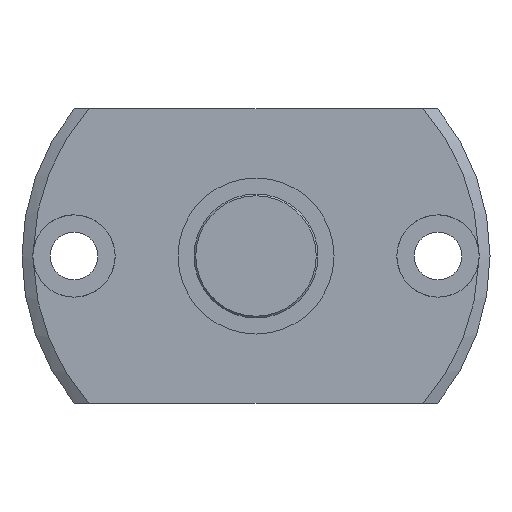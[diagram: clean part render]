
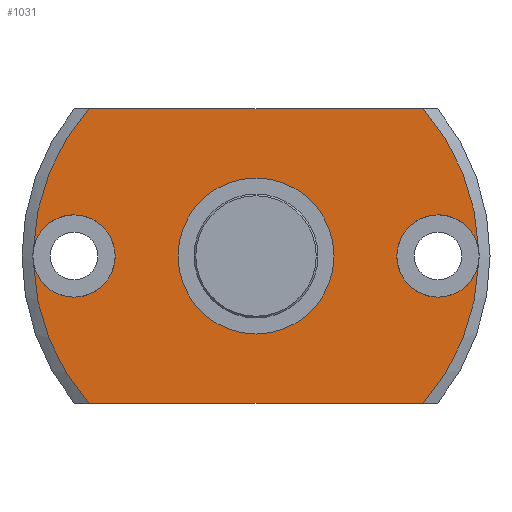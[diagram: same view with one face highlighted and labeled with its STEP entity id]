
A CAD part, left-side view. The second image highlights one B-rep face of the part: STEP entity #1031.
In plain terms, the highlighted planar face has unit normal (-1, 0, 0).
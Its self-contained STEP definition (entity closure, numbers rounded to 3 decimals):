
#38=LINE('',#1818,#88);
#39=LINE('',#1820,#89);
#88=VECTOR('',#1393,1000.);
#89=VECTOR('',#1396,1000.);
#308=ORIENTED_EDGE('',*,*,#562,.T.);
#309=ORIENTED_EDGE('',*,*,#563,.T.);
#310=ORIENTED_EDGE('',*,*,#548,.T.);
#311=ORIENTED_EDGE('',*,*,#564,.F.);
#312=ORIENTED_EDGE('',*,*,#550,.F.);
#313=ORIENTED_EDGE('',*,*,#565,.T.);
#314=ORIENTED_EDGE('',*,*,#554,.T.);
#315=ORIENTED_EDGE('',*,*,#566,.F.);
#316=ORIENTED_EDGE('',*,*,#544,.T.);
#544=EDGE_CURVE('',#670,#668,#743,.F.);
#548=EDGE_CURVE('',#669,#673,#745,.F.);
#550=EDGE_CURVE('',#674,#676,#746,.T.);
#554=EDGE_CURVE('',#675,#679,#748,.F.);
#562=EDGE_CURVE('',#687,#687,#754,.T.);
#563=EDGE_CURVE('',#668,#669,#755,.T.);
#564=EDGE_CURVE('',#676,#673,#38,.T.);
#565=EDGE_CURVE('',#674,#675,#756,.T.);
#566=EDGE_CURVE('',#670,#679,#39,.T.);
#668=VERTEX_POINT('',#1760);
#669=VERTEX_POINT('',#1761);
#670=VERTEX_POINT('',#1763);
#673=VERTEX_POINT('',#1775);
#674=VERTEX_POINT('',#1782);
#675=VERTEX_POINT('',#1783);
#676=VERTEX_POINT('',#1785);
#679=VERTEX_POINT('',#1797);
#687=VERTEX_POINT('',#1816);
#743=CIRCLE('',#1153,25.7);
#745=CIRCLE('',#1155,25.7);
#746=CIRCLE('',#1157,25.7);
#748=CIRCLE('',#1159,25.7);
#754=CIRCLE('',#1167,9.);
#755=CIRCLE('',#1168,4.75);
#756=CIRCLE('',#1169,4.75);
#816=EDGE_LOOP('',(#308));
#817=EDGE_LOOP('',(#309,#310,#311,#312,#313,#314,#315,#316));
#914=FACE_BOUND('',#816,.T.);
#915=FACE_BOUND('',#817,.T.);
#976=PLANE('',#1166);
#1031=ADVANCED_FACE('',(#914,#915),#976,.F.);
#1153=AXIS2_PLACEMENT_3D('',#1762,#1359,#1360);
#1155=AXIS2_PLACEMENT_3D('',#1776,#1363,#1364);
#1157=AXIS2_PLACEMENT_3D('',#1784,#1367,#1368);
#1159=AXIS2_PLACEMENT_3D('',#1798,#1371,#1372);
#1166=AXIS2_PLACEMENT_3D('',#1814,#1387,#1388);
#1167=AXIS2_PLACEMENT_3D('',#1815,#1389,#1390);
#1168=AXIS2_PLACEMENT_3D('',#1817,#1391,#1392);
#1169=AXIS2_PLACEMENT_3D('',#1819,#1394,#1395);
#1359=DIRECTION('',(1.,0.,0.));
#1360=DIRECTION('',(0.,0.,-1.));
#1363=DIRECTION('',(1.,0.,0.));
#1364=DIRECTION('',(0.,0.,-1.));
#1367=DIRECTION('',(1.,0.,0.));
#1368=DIRECTION('',(0.,0.,-1.));
#1371=DIRECTION('',(1.,0.,0.));
#1372=DIRECTION('',(0.,0.,-1.));
#1387=DIRECTION('',(1.,0.,0.));
#1388=DIRECTION('',(0.,0.,-1.));
#1389=DIRECTION('',(1.,0.,0.));
#1390=DIRECTION('',(0.,0.,-1.));
#1391=DIRECTION('',(1.,0.,0.));
#1392=DIRECTION('',(0.,0.,-1.));
#1393=DIRECTION('',(0.,-1.,0.));
#1394=DIRECTION('',(1.,0.,0.));
#1395=DIRECTION('',(0.,0.,-1.));
#1396=DIRECTION('',(0.,1.,0.));
#1760=CARTESIAN_POINT('',(0.,-25.689,-0.76));
#1761=CARTESIAN_POINT('',(0.,-25.689,0.76));
#1762=CARTESIAN_POINT('',(0.,0.,0.));
#1763=CARTESIAN_POINT('',(0.,-19.274,-17.));
#1775=CARTESIAN_POINT('',(0.,-19.274,17.));
#1776=CARTESIAN_POINT('',(0.,0.,0.));
#1782=CARTESIAN_POINT('',(0.,25.689,0.76));
#1783=CARTESIAN_POINT('',(0.,25.689,-0.76));
#1784=CARTESIAN_POINT('',(0.,0.,0.));
#1785=CARTESIAN_POINT('',(0.,19.274,17.));
#1797=CARTESIAN_POINT('',(0.,19.274,-17.));
#1798=CARTESIAN_POINT('',(0.,0.,0.));
#1814=CARTESIAN_POINT('',(0.,0.,0.));
#1815=CARTESIAN_POINT('',(0.,0.,0.));
#1816=CARTESIAN_POINT('',(0.,0.,-9.));
#1817=CARTESIAN_POINT('',(0.,-21.,0.));
#1818=CARTESIAN_POINT('',(0.,20.976,17.));
#1819=CARTESIAN_POINT('',(0.,21.,0.));
#1820=CARTESIAN_POINT('',(0.,-20.976,-17.));
